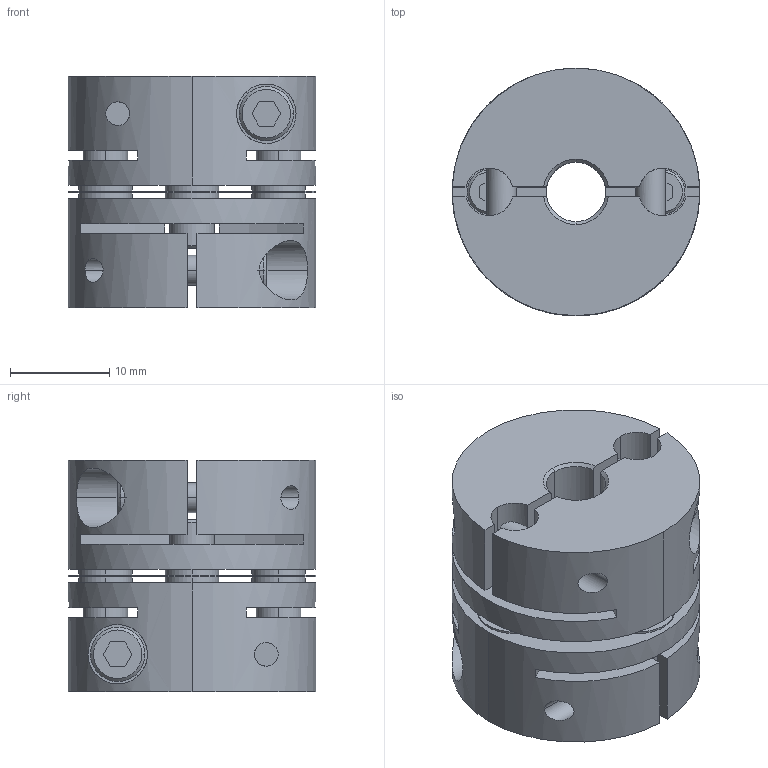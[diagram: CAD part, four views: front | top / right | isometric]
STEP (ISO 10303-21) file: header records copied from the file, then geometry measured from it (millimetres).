
FILE_DESCRIPTION((''),'2;1');
FILE_NAME('LAS-25C-6×7.stp','2011-08-10T10:17:57',(''),(''),'AutoCAD STEP 2000i','AutoCAD 2000i',', , ');
FILE_SCHEMA(('CONFIG_CONTROL_DESIGN'));
Length unit declared in the file: millimetre
Products named in the file (5): LAS-25C-6×6; 忣兜1; LA-2502-D06-1; LA-2502-D06; LAS25-ITA
Assembly tree (4 placements, depth 2):
  LAS-25C-6×6
    忣兜1
    LA-2502-D06-1
    LA-2502-D06
    LAS25-ITA
Bounding box: 25 x 25 x 23.4 mm (x, y, z)
Volume: 8764.7 mm3; surface area: 6920.5 mm2
Topology: 1 solids, 1 shells, 244 faces, 648 edges, 424 vertices
Faces by surface type: plane 112, cylinder 104, cone 28
Entity records: 8499 total; most frequent: CARTESIAN_POINT 2121, DIRECTION 1326, ORIENTED_EDGE 1296, EDGE_CURVE 648, AXIS2_PLACEMENT_3D 485, VERTEX_POINT 424, VECTOR 356, LINE 356
